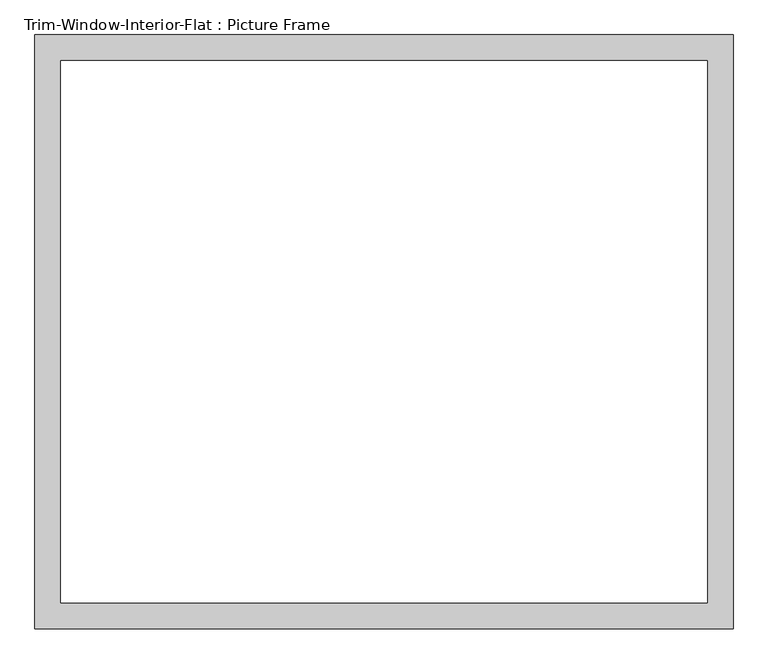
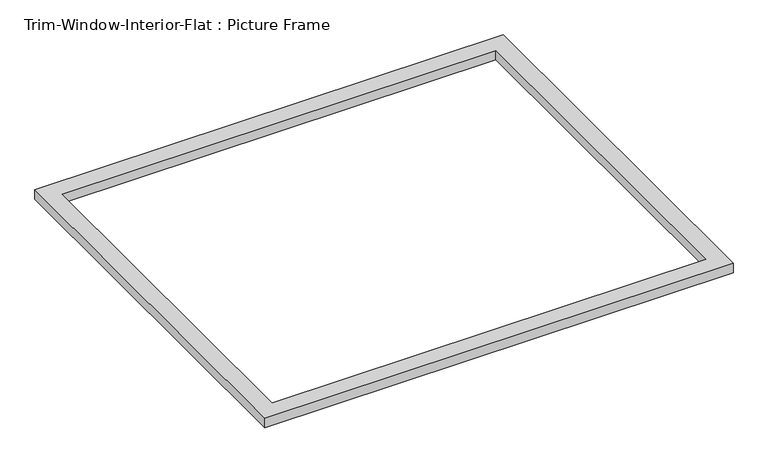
"""IFC4 building model written with IfcOpenShell, lengths in millimetres: proxy geometry, Trim-Window-Interior-Flat : Picture Frame."""

from ifc_helpers import new_model, si_unit, origin, origin_with_axes, place, context, project, spatial, polyline, outline, extrude, source, transform, mapped, element, save


def trim_window_interior_flat_picture_frame_0d63cbb6(model_context):
    return source(origin(), model_context, "Body", "SweptSolid", [
        extrude(outline(polyline([(768.35, 44.45), (768.35, -1263.65), (-768.35, -1263.65), (-768.35, 44.45), (768.35, 44.45)]), holes=[polyline([(711.2, -12.7), (-711.2, -12.7), (-711.2, -1206.5), (711.2, -1206.5), (711.2, -12.7)])]), origin_with_axes(), (0.0, 0.0, 1.0), 31.75),
    ])


if __name__ == "__main__":
    model = new_model("IFC4")
    model_context = context("Model", 3, world=origin())
    ifc_project = project(units=[si_unit("LENGTHUNIT", "METRE", prefix="MILLI")], contexts=[model_context])
    site = spatial("IfcSite", under=ifc_project)
    building = spatial("IfcBuilding", under=site)
    placement = place(None, origin())
    trim_window_interior_flat_picture_frame_shape = trim_window_interior_flat_picture_frame_0d63cbb6(model_context)
    element("IfcBuildingElementProxy", 1, Name="Trim-Window-Interior-Flat : Picture Frame", ObjectType="Trim-Window-Interior-Flat : Picture Frame", at=placement, inside=building, context=model_context, shape_type="MappedRepresentation", body=[
        mapped(trim_window_interior_flat_picture_frame_shape, transform((0.0, 0.0, 0.0), x_axis=(1.0, 0.0, 0.0), y_axis=(0.0, 1.0, 0.0), z_axis=(0.0, 0.0, 1.0))),
    ])
    save(model, "model.ifc")
